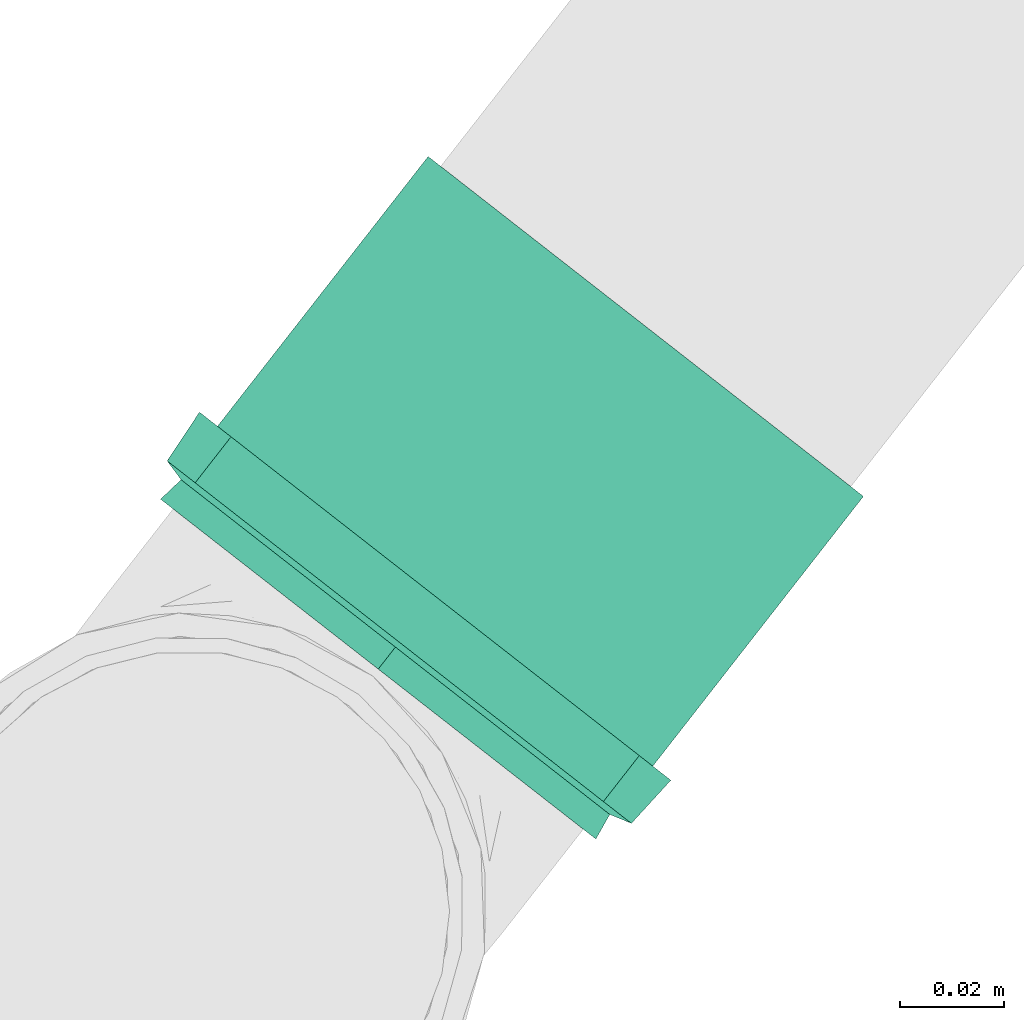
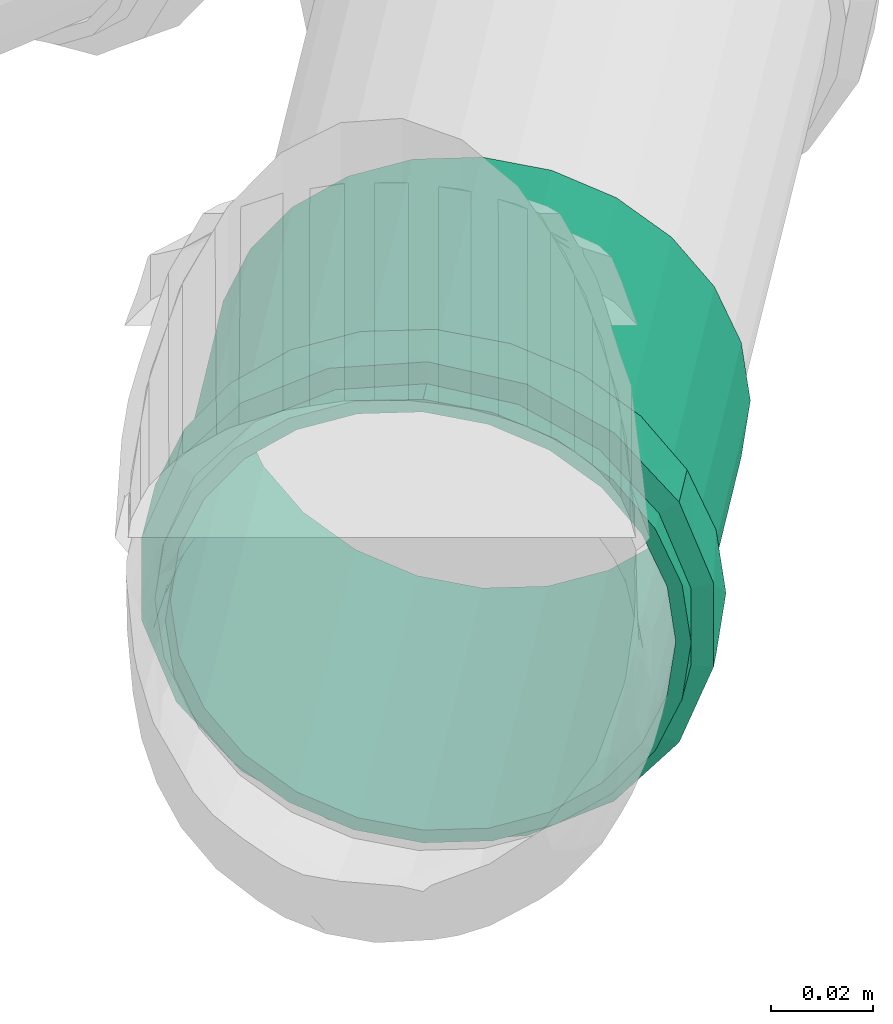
# One storey, part 28 of 97: 1 flow fitting.
"""IFC2X3 building model written with IfcOpenShell, lengths in centimetres."""

from ifc_helpers import new_model, entity, si_unit, converted_unit, derived_unit, direction, frame, origin, place, context, subcontext, project, spatial, faceted_brep, source, transform, mapped, material, type_object, type_shapes, element, save


model = new_model("IFC2X3")

# Units and contexts
model_context = context("Model", 3, precision=0.001, world=origin(), true_north=direction((6.12303176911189e-17, 1.0)))
body_context = subcontext(model_context, "Body", "Model", "MODEL_VIEW")
ifc_project = project(units=[si_unit("LENGTHUNIT", "METRE", prefix="CENTI"), si_unit("AREAUNIT", "SQUARE_METRE"), si_unit("VOLUMEUNIT", "CUBIC_METRE"), converted_unit("PLANEANGLEUNIT", "DEGREE", entity("IfcRatioMeasure", 0.0174532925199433), si_unit("PLANEANGLEUNIT", "RADIAN"), dimensions=[0, 0, 0, 0, 0, 0, 0]), si_unit("MASSUNIT", "GRAM", prefix="KILO"), derived_unit("MASSDENSITYUNIT", [(si_unit("MASSUNIT", "GRAM", prefix="KILO"), 1), (si_unit("LENGTHUNIT", "METRE"), -3)]), derived_unit("MOMENTOFINERTIAUNIT", [(si_unit("LENGTHUNIT", "METRE"), 4)]), si_unit("TIMEUNIT", "SECOND"), si_unit("FREQUENCYUNIT", "HERTZ"), si_unit("THERMODYNAMICTEMPERATUREUNIT", "DEGREE_CELSIUS"), derived_unit("THERMALTRANSMITTANCEUNIT", [(si_unit("MASSUNIT", "GRAM", prefix="KILO"), 1), (si_unit("THERMODYNAMICTEMPERATUREUNIT", "KELVIN"), -1), (si_unit("TIMEUNIT", "SECOND"), -3)]), derived_unit("VOLUMETRICFLOWRATEUNIT", [(si_unit("LENGTHUNIT", "METRE"), 3), (si_unit("TIMEUNIT", "SECOND"), -1)]), si_unit("ELECTRICCURRENTUNIT", "AMPERE"), si_unit("ELECTRICVOLTAGEUNIT", "VOLT"), si_unit("POWERUNIT", "WATT"), si_unit("FORCEUNIT", "NEWTON", prefix="KILO"), si_unit("ILLUMINANCEUNIT", "LUX"), si_unit("LUMINOUSFLUXUNIT", "LUMEN"), si_unit("LUMINOUSINTENSITYUNIT", "CANDELA"), derived_unit("USERDEFINED", [(si_unit("MASSUNIT", "GRAM", prefix="KILO"), -1), (si_unit("LENGTHUNIT", "METRE"), -2), (si_unit("TIMEUNIT", "SECOND"), 3), (si_unit("LUMINOUSFLUXUNIT", "LUMEN"), 1)]), derived_unit("LINEARVELOCITYUNIT", [(si_unit("LENGTHUNIT", "METRE"), 1), (si_unit("TIMEUNIT", "SECOND"), -1)]), si_unit("PRESSUREUNIT", "PASCAL"), derived_unit("USERDEFINED", [(si_unit("LENGTHUNIT", "METRE"), -2), (si_unit("MASSUNIT", "GRAM", prefix="KILO"), 1), (si_unit("TIMEUNIT", "SECOND"), -2)]), derived_unit("LINEARFORCEUNIT", [(si_unit("MASSUNIT", "GRAM", prefix="KILO"), 1), (si_unit("LENGTHUNIT", "METRE"), 1), (si_unit("TIMEUNIT", "SECOND"), -2), (si_unit("LENGTHUNIT", "METRE"), -1)]), derived_unit("PLANARFORCEUNIT", [(si_unit("MASSUNIT", "GRAM", prefix="KILO"), 1), (si_unit("LENGTHUNIT", "METRE"), 1), (si_unit("TIMEUNIT", "SECOND"), -2), (si_unit("LENGTHUNIT", "METRE"), -2)])], contexts=[model_context])

# Site, building, storey
site_placement = place(None, origin())
site = spatial("IfcSite", under=ifc_project, at=site_placement, Name="Default", CompositionType="ELEMENT")
building_placement = place(site_placement, origin())
building = spatial("IfcBuilding", under=site, at=building_placement, Name="HIDROSSANITÁRIO", CompositionType="ELEMENT")
storey_placement = place(building_placement, frame((0.0, 0.0, -260.0)))
storey = spatial("IfcBuildingStorey", under=building, at=storey_placement, Name="TÉRREO-HID", CompositionType="ELEMENT", Elevation=-260.0)

# Flow fitting
ifc_material = material(Name="PVC Branco")
pipe_fitting_type = type_object("IfcPipeFittingType", Name="Luva Simples para Conexão - Serie Normal - Esgoto - MEP - Tigre:Standard", PredefinedType="NOTDEFINED", material=ifc_material)
shared_shape = source(origin(), body_context, "Body", "Brep", [
    faceted_brep([(1.77700000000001, 2.8725, -4.9753159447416), (1.77700000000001, 4.06232845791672, -4.06232845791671), (1.77700000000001, 2.65249999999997, -4.59426476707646), (1.77700000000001, 1.37303503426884, -5.12423650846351), (1.77700000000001, 1.48691541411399, -5.5492438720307), (1.77700000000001, 3.75120147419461, -3.75120147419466), (1.77700000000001, 4.9753159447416, -2.8725), (1.77700000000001, 4.59426476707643, -2.65250000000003), (1.77700000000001, 5.1242365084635, -1.37303503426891), (1.77700000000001, 5.5492438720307, -1.48691541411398), (1.77700000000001, 5.305, 0.0), (1.77700000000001, 5.745, 0.0), (1.77700000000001, 5.1242365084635, 1.3730350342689), (1.77700000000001, 5.54924387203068, 1.48691541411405), (1.77700000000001, 4.59426476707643, 2.65250000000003), (1.77700000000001, 4.97531594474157, 2.87250000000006), (1.77700000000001, 3.75120147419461, 3.75120147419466), (1.77700000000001, 4.06232845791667, 4.06232845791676), (1.77700000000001, 2.65249999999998, 4.59426476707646), (1.77700000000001, 2.87249999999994, 4.97531594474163), (1.77700000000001, 1.37303503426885, 5.12423650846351), (1.77700000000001, 1.48691541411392, 5.54924387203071), (1.77700000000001, 0.0, 5.305), (1.77700000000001, 0.0, 5.745), (1.77700000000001, -1.37303503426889, 5.1242365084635), (1.77700000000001, -1.48691541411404, 5.54924387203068), (1.77700000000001, -2.65250000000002, 4.59426476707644), (1.77700000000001, -2.87250000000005, 4.97531594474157), (1.77700000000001, -3.75120147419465, 3.75120147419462), (1.77700000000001, -4.06232845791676, 4.06232845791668), (1.77700000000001, -4.59426476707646, 2.65249999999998), (1.77700000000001, -4.97531594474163, 2.87249999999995), (1.77700000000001, -5.54924387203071, 1.48691541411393), (1.77700000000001, -5.12423650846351, 1.37303503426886), (1.77700000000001, -5.745, 0.0), (1.77700000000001, -5.305, 0.0), (1.77700000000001, -5.54924387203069, -1.486915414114), (1.77700000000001, -5.12423650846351, -1.37303503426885), (1.77700000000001, -4.97531594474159, -2.87250000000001), (1.77700000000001, -4.59426476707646, -2.65249999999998), (1.77700000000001, -4.06232845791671, -4.06232845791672), (1.77700000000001, -3.75120147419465, -3.75120147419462), (1.77700000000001, -2.87249999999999, -4.97531594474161), (1.77700000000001, -2.65250000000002, -4.59426476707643), (1.77700000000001, -1.48691541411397, -5.5492438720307), (1.77700000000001, -1.3730350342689, -5.1242365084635), (1.77700000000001, 0.0, -5.745), (1.77700000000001, 0.0, -5.305), (0.657000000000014, -1.93463887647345, 5.31665771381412), (0.657000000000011, -4.4007619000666, 3.69300957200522), (0.657000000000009, -4.89962626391, 2.82901737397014), (0.657000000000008, -5.39849062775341, 1.96502517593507), (0.657000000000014, -2.87216972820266, 4.97550661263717), (0.657000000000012, -3.63646581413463, 4.3342580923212), (0.657000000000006, -5.5717453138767, 0.982512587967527), (0.657000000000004, -5.745, 0.0), (0.657000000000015, -0.997108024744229, 5.65780881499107), (0.657000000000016, 0.998234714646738, 5.65761013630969), (0.657000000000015, 0.0005633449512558, 5.65770947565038), (0.657000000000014, 3.63732887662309, 4.33353383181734), (0.657000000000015, 1.93569761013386, 5.31627233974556), (0.657000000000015, 2.87316050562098, 4.97493454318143), (0.65700000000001, 5.39888184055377, 1.96395006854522), (0.657000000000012, 4.90018954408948, 2.82804159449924), (0.657000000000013, 4.40149724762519, 3.69213312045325), (0.657000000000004, 5.745, 0.0), (0.656999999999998, 4.40149724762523, -3.6921331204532), (0.657, 4.90018954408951, -2.82804159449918), (0.657000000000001, 5.39888184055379, -1.96395006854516), (0.656999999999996, 2.87316050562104, -4.9749345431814), (0.656999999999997, 3.63732887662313, -4.3335338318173), (0.656999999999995, 1.93569761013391, -5.31627233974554), (0.656999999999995, 0.998234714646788, -5.65761013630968), (0.656999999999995, -0.997108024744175, -5.65780881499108), (0.656999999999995, 0.000563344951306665, -5.65770947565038), (0.656999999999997, -3.6364658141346, -4.33425809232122), (0.656999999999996, -2.87216972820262, -4.9755066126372), (0.656999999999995, -1.9346388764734, -5.31665771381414), (0.657000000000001, -5.39849062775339, -1.96502517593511), (0.657, -4.89962626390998, -2.82901737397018), (0.656999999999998, -4.40076190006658, -3.69300957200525), (0.657000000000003, -5.5717453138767, -0.982512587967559), (8.35200000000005, 2.6525, -4.59426476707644), (8.35200000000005, 3.75120147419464, -3.75120147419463), (8.35200000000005, 2.49999999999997, -4.33012701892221), (8.35200000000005, 1.29409522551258, -4.82962913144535), (8.35200000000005, 1.37303503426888, -5.1242365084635), (8.35200000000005, 3.53553390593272, -3.53553390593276), (8.35200000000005, 4.59426476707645, -2.6525), (8.35200000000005, 4.33012701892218, -2.50000000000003), (8.35200000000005, 4.82962913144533, -1.29409522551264), (8.35200000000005, 5.12423650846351, -1.37303503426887), (8.35200000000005, 5.0, 0.0), (8.35200000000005, 5.305, 0.0), (8.35200000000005, 4.82962913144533, 1.29409522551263), (8.35200000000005, 5.12423650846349, 1.37303503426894), (8.35200000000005, 4.33012701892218, 2.50000000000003), (8.35200000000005, 4.59426476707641, 2.65250000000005), (8.35200000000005, 3.53553390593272, 3.53553390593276), (8.35200000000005, 3.75120147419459, 3.75120147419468), (8.35200000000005, 2.49999999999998, 4.33012701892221), (8.35200000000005, 2.65249999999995, 4.59426476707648), (8.35200000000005, 1.29409522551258, 4.82962913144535), (8.35200000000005, 1.37303503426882, 5.12423650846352), (8.35200000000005, 0.0, 5.0), (8.35200000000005, 0.0, 5.305), (8.35200000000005, -1.29409522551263, 4.82962913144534), (8.35200000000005, -1.37303503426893, 5.12423650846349), (8.35200000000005, -2.50000000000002, 4.33012701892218), (8.35200000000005, -2.65250000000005, 4.59426476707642), (8.35200000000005, -3.53553390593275, 3.53553390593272), (8.35200000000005, -3.75120147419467, 3.7512014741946), (8.35200000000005, -4.3301270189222, 2.49999999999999), (8.35200000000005, -4.59426476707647, 2.65249999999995), (8.35200000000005, -5.12423650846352, 1.37303503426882), (8.35200000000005, -4.82962913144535, 1.29409522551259), (8.35200000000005, -5.305, 0.0), (8.35200000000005, -5.0, 0.0), (8.35200000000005, -5.1242365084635, -1.37303503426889), (8.35200000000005, -4.82962913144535, -1.29409522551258), (8.35200000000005, -4.59426476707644, -2.65250000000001), (8.35200000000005, -4.3301270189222, -2.49999999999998), (8.35200000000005, -3.75120147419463, -3.75120147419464), (8.35200000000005, -3.53553390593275, -3.53553390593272), (8.35200000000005, -2.65249999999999, -4.59426476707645), (8.35200000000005, -2.50000000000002, -4.33012701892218), (8.35200000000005, -1.37303503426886, -5.12423650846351), (8.35200000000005, -1.29409522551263, -4.82962913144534), (8.35200000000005, 0.0, -5.305), (8.35200000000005, 0.0, -5.0), (0.0, 2.49999999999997, -4.33012701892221), (0.0, 3.75120147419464, -3.75120147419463), (0.0, 2.6525, -4.59426476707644), (0.0, 1.29409522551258, -4.82962913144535), (0.0, 3.53553390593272, -3.53553390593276), (0.0, 4.59426476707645, -2.6525), (0.0, 4.33012701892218, -2.50000000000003), (0.0, 4.82962913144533, -1.29409522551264), (0.0, 5.12423650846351, -1.37303503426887), (0.0, 5.0, 0.0), (0.0, 5.305, 0.0), (0.0, 4.82962913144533, 1.29409522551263), (0.0, 5.12423650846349, 1.37303503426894), (0.0, 4.33012701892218, 2.50000000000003), (0.0, 4.59426476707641, 2.65250000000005), (0.0, 3.53553390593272, 3.53553390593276), (0.0, 3.75120147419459, 3.75120147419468), (0.0, 2.49999999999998, 4.33012701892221), (0.0, 2.65249999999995, 4.59426476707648), (0.0, 1.29409522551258, 4.82962913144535), (0.0, 1.37303503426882, 5.12423650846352), (0.0, 0.0, 5.0), (0.0, 0.0, 5.305), (0.0, -1.29409522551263, 4.82962913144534), (0.0, -1.37303503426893, 5.12423650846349), (0.0, -2.50000000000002, 4.33012701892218), (0.0, -2.65250000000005, 4.59426476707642), (0.0, -3.53553390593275, 3.53553390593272), (0.0, -3.75120147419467, 3.7512014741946), (0.0, -4.3301270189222, 2.49999999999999), (0.0, -4.59426476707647, 2.65249999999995), (0.0, -5.12423650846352, 1.37303503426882), (0.0, -4.82962913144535, 1.29409522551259), (0.0, -5.305, 0.0), (0.0, -5.0, 0.0), (0.0, -5.1242365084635, -1.37303503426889), (0.0, -4.82962913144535, -1.29409522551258), (0.0, -4.59426476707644, -2.65250000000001), (0.0, -4.3301270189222, -2.49999999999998), (0.0, -3.75120147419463, -3.75120147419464), (0.0, -3.53553390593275, -3.53553390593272), (0.0, -2.65249999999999, -4.59426476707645), (0.0, -2.50000000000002, -4.33012701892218), (0.0, -1.37303503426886, -5.12423650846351), (0.0, -1.29409522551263, -4.82962913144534), (0.0, 0.0, -5.305), (0.0, 0.0, -5.0), (0.0, 1.37303503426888, -5.1242365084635), (0.537000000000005, -5.305, 0.0), (0.537000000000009, -4.98507989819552, 1.81438788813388), (0.537000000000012, -4.06390540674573, 3.4099410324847), (0.537000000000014, -2.65258010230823, 4.59421851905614), (0.537000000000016, -0.921325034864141, 5.22438371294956), (0.537000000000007, 5.1449924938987, 0.907324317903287), (0.537000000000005, 5.305, 0.0), (0.537000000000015, 2.65233979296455, 4.59435725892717), (0.537000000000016, 0.921051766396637, 5.22443189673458), (0.537000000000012, 4.06372704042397, 3.41015359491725), (0.537000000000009, 4.9849849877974, 1.81464863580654), (0.537000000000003, 5.14499249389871, -0.907324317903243), (0.537000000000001, 4.98498498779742, -1.81464863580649), (0.536999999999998, 4.063727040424, -3.41015359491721), (0.536999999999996, 2.6523397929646, -4.59435725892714), (0.536999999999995, 0.921051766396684, -5.22443189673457), (0.536999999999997, -2.6525801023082, -4.59421851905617), (0.536999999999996, -0.921325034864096, -5.22438371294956), (0.536999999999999, -4.0639054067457, -3.40994103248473), (0.537000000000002, -4.98507989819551, -1.81438788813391), (5.0, -5.0, 0.0), (5.0, 5.0, 0.0)], [[[0, 1, 2]], [[0, 2, 3]], [[3, 4, 0]], [[2, 1, 5]], [[6, 5, 1]], [[5, 6, 7]], [[7, 6, 8]], [[9, 8, 6]], [[9, 10, 8]], [[10, 9, 11]], [[12, 10, 11]], [[11, 13, 12]], [[12, 13, 14]], [[15, 14, 13]], [[14, 15, 16]], [[16, 15, 17]], [[18, 16, 17]], [[17, 19, 18]], [[18, 19, 20]], [[21, 20, 19]], [[20, 21, 22]], [[22, 21, 23]], [[22, 23, 24]], [[24, 23, 25]], [[24, 25, 26]], [[27, 26, 25]], [[27, 28, 26]], [[28, 27, 29]], [[29, 30, 28]], [[31, 30, 29]], [[30, 31, 32]], [[32, 33, 30]], [[34, 33, 32]], [[34, 35, 33]], [[36, 35, 34]], [[36, 37, 35]], [[37, 36, 38]], [[38, 39, 37]], [[39, 38, 40]], [[39, 40, 41]], [[40, 42, 41]], [[41, 42, 43]], [[43, 42, 44]], [[44, 45, 43]], [[46, 45, 44]], [[4, 47, 46]], [[46, 47, 45]], [[4, 3, 47]], [[48, 27, 25]], [[31, 29, 49]], [[31, 49, 50, 51]], [[52, 53, 27]], [[32, 51, 54]], [[54, 55, 34]], [[54, 34, 32]], [[25, 56, 48]], [[49, 29, 53]], [[23, 57, 58, 56]], [[59, 19, 17]], [[27, 53, 29]], [[48, 52, 27]], [[31, 51, 32]], [[57, 23, 21]], [[60, 19, 61]], [[15, 62, 63, 64]], [[19, 60, 21]], [[15, 13, 62]], [[17, 64, 59]], [[57, 21, 60]], [[23, 56, 25]], [[15, 64, 17]], [[13, 65, 62]], [[13, 11, 65]], [[59, 61, 19]], [[65, 11, 9]], [[6, 1, 66]], [[6, 66, 67, 68]], [[69, 70, 0]], [[68, 65, 9]], [[71, 69, 0]], [[71, 0, 4]], [[4, 72, 71]], [[66, 1, 70]], [[46, 73, 74, 72]], [[75, 76, 42]], [[0, 70, 1]], [[75, 42, 40]], [[6, 68, 9]], [[73, 46, 44]], [[77, 42, 76]], [[38, 78, 79, 80]], [[42, 77, 44]], [[38, 36, 78]], [[40, 80, 75]], [[73, 44, 77]], [[46, 72, 4]], [[38, 80, 40]], [[81, 78, 36]], [[55, 81, 34]], [[34, 81, 36]], [[82, 83, 84]], [[82, 84, 85]], [[85, 86, 82]], [[84, 83, 87]], [[88, 87, 83]], [[87, 88, 89]], [[89, 88, 90]], [[91, 90, 88]], [[91, 92, 90]], [[92, 91, 93]], [[94, 92, 93]], [[93, 95, 94]], [[94, 95, 96]], [[97, 96, 95]], [[96, 97, 98]], [[98, 97, 99]], [[100, 98, 99]], [[99, 101, 100]], [[100, 101, 102]], [[103, 102, 101]], [[102, 103, 104]], [[104, 103, 105]], [[104, 105, 106]], [[106, 105, 107]], [[106, 107, 108]], [[109, 108, 107]], [[110, 108, 109]], [[110, 109, 111]], [[111, 112, 110]], [[113, 112, 111]], [[112, 113, 114]], [[114, 115, 112]], [[116, 115, 114]], [[116, 117, 115]], [[118, 117, 116]], [[118, 119, 117]], [[119, 118, 120]], [[120, 121, 119]], [[121, 120, 122]], [[121, 122, 123]], [[122, 124, 123]], [[125, 123, 124]], [[125, 124, 126]], [[126, 127, 125]], [[128, 127, 126]], [[86, 129, 128]], [[128, 129, 127]], [[86, 85, 129]], [[130, 131, 132]], [[133, 130, 132]], [[134, 131, 130]], [[131, 134, 135]], [[136, 135, 134]], [[137, 135, 136]], [[135, 137, 138]], [[137, 139, 138]], [[140, 138, 139]], [[140, 139, 141]], [[141, 142, 140]], [[143, 142, 141]], [[142, 143, 144]], [[145, 144, 143]], [[146, 144, 145]], [[146, 145, 147]], [[147, 148, 146]], [[149, 148, 147]], [[148, 149, 150]], [[151, 150, 149]], [[152, 150, 151]], [[153, 152, 151]], [[154, 152, 153]], [[155, 154, 153]], [[154, 155, 156]], [[156, 155, 157]], [[158, 156, 157]], [[157, 159, 158]], [[158, 159, 160]], [[161, 160, 159]], [[159, 162, 161]], [[161, 162, 163]], [[162, 164, 163]], [[163, 164, 165]], [[164, 166, 165]], [[167, 165, 166]], [[166, 168, 167]], [[169, 167, 168]], [[170, 169, 168]], [[170, 171, 169]], [[171, 170, 172]], [[173, 171, 172]], [[172, 174, 173]], [[173, 174, 175]], [[174, 176, 175]], [[176, 133, 177]], [[175, 176, 177]], [[132, 177, 133]], [[161, 178, 179]], [[158, 180, 181]], [[179, 180, 160]], [[181, 182, 154]], [[179, 160, 161]], [[161, 163, 178]], [[35, 116, 114, 33]], [[183, 184, 140]], [[181, 156, 158]], [[158, 160, 180]], [[181, 154, 156]], [[182, 152, 154]], [[183, 140, 142]], [[185, 150, 186]], [[187, 146, 185]], [[142, 188, 183]], [[187, 188, 144]], [[185, 148, 150]], [[150, 152, 186]], [[187, 144, 146]], [[146, 148, 185]], [[188, 142, 144]], [[186, 152, 182]], [[189, 190, 138]], [[131, 191, 192]], [[190, 191, 135]], [[192, 193, 177]], [[190, 135, 138]], [[184, 189, 140]], [[192, 132, 131]], [[131, 135, 191]], [[192, 177, 132]], [[193, 175, 177]], [[140, 189, 138]], [[194, 173, 195]], [[196, 169, 194]], [[165, 197, 178]], [[196, 197, 167]], [[165, 178, 163]], [[35, 37, 118, 116]], [[194, 171, 173]], [[173, 175, 195]], [[196, 167, 169]], [[169, 171, 194]], [[197, 165, 167]], [[195, 175, 193]], [[115, 117, 198, 164, 162]], [[155, 108, 110, 157]], [[110, 112, 159, 157]], [[112, 115, 162, 159]], [[106, 108, 155, 153]], [[153, 151, 104, 106]], [[102, 104, 151, 149]], [[102, 149, 147, 100]], [[141, 94, 96, 143]], [[96, 98, 145, 143]], [[98, 100, 147, 145]], [[92, 94, 141, 139, 199]], [[199, 139, 137, 90, 92]], [[87, 89, 136, 134]], [[134, 130, 84, 87]], [[89, 90, 137, 136]], [[85, 84, 130, 133]], [[133, 176, 129, 85]], [[127, 129, 176, 174]], [[127, 174, 172, 125]], [[166, 119, 121, 168]], [[121, 123, 170, 168]], [[123, 125, 172, 170]], [[117, 119, 166, 164, 198]], [[81, 178, 197]], [[190, 68, 67]], [[194, 75, 196]], [[193, 72, 74]], [[195, 77, 194]], [[79, 197, 196]], [[81, 55, 178]], [[192, 69, 71]], [[79, 78, 197]], [[194, 77, 76]], [[191, 66, 70]], [[80, 196, 75]], [[68, 190, 189]], [[74, 195, 193]], [[192, 71, 193]], [[190, 67, 191]], [[70, 192, 191]], [[65, 189, 184]], [[195, 73, 77]], [[193, 71, 72]], [[197, 78, 81]], [[191, 67, 66]], [[189, 65, 68]], [[196, 80, 79]], [[70, 69, 192]], [[194, 76, 75]], [[73, 195, 74]], [[65, 183, 62]], [[48, 56, 182]], [[58, 182, 56]], [[54, 51, 179]], [[59, 185, 61]], [[60, 186, 57]], [[53, 52, 181]], [[63, 187, 64]], [[58, 57, 186]], [[187, 63, 188]], [[186, 60, 185]], [[50, 49, 180]], [[185, 59, 187]], [[59, 64, 187]], [[182, 58, 186]], [[50, 179, 51]], [[54, 178, 55]], [[53, 180, 49]], [[63, 62, 188]], [[181, 48, 182]], [[183, 65, 184]], [[179, 50, 180]], [[178, 54, 179]], [[183, 188, 62]], [[180, 53, 181]], [[60, 61, 185]], [[48, 181, 52]], [[30, 33, 114, 113]], [[26, 28, 111, 109]], [[113, 111, 28, 30]], [[107, 24, 26, 109]], [[107, 105, 22, 24]], [[18, 20, 103, 101]], [[99, 16, 18, 101]], [[12, 14, 97, 95]], [[99, 97, 14, 16]], [[10, 12, 95, 93]], [[103, 20, 22, 105]], [[91, 8, 10, 93]], [[88, 7, 8, 91]], [[82, 86, 3, 2]], [[83, 5, 7, 88]], [[2, 5, 83, 82]], [[86, 128, 47, 3]], [[43, 45, 126, 124]], [[122, 41, 43, 124]], [[37, 39, 120, 118]], [[122, 120, 39, 41]], [[126, 45, 47, 128]]]),
])
type_shapes(pipe_fitting_type, [shared_shape])
flow_fitting_placement = place(storey_placement, frame((-1495.0233767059, 2958.47083690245, -35.9255531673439), z_axis=(0.788186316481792, -0.615436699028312, 0.0), x_axis=(0.615436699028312, 0.788186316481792, 0.0)))
element("IfcFlowFitting", 1, at=flow_fitting_placement, inside=storey, type_object=pipe_fitting_type, material=ifc_material, Name="Luva Simples para Conexão - Serie Normal - Esgoto - MEP - Tigre:Standard", ObjectType="Luva Simples para Conexão - Serie Normal - Esgoto - MEP - Tigre:Standard", context=body_context, shape_type="MappedRepresentation", body=[
    mapped(shared_shape, transform((0.0, 0.0, 0.0), scale=1.0)),
])

save(model, "model.ifc")
